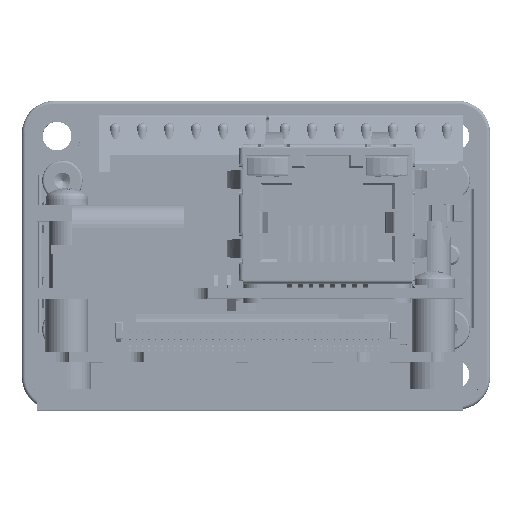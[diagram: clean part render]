
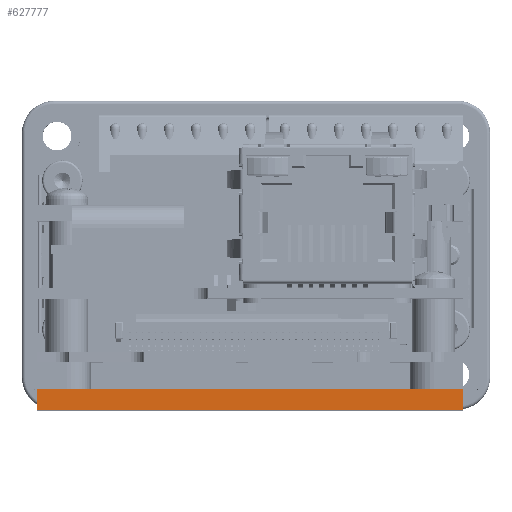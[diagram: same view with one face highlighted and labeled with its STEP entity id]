
A CAD part, top view. The second image highlights one B-rep face of the part: STEP entity #627777.
In plain terms, the highlighted planar face has unit normal (0, 0, 1).
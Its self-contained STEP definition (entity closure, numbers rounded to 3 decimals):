
#46774 = FACE_OUTER_BOUND ( 'NONE', #929274, .T. ) ;
#48662 = VECTOR ( 'NONE', #927482, 1000. ) ;
#59530 = VECTOR ( 'NONE', #308398, 1000. ) ;
#146693 = EDGE_CURVE ( 'NONE', #1044557, #896619, #167905, .T. ) ;
#167905 = LINE ( 'NONE', #1010710, #48662 ) ;
#256020 = DIRECTION ( 'NONE',  ( 1., 0., 0. ) ) ;
#307417 = VERTEX_POINT ( 'NONE', #579185 ) ;
#308398 = DIRECTION ( 'NONE',  ( 0., 1., 0. ) ) ;
#344190 = DIRECTION ( 'NONE',  ( 1., 0., 0. ) ) ;
#360541 = LINE ( 'NONE', #848671, #1209197 ) ;
#382449 = ORIENTED_EDGE ( 'NONE', *, *, #761247, .T. ) ;
#393492 = CARTESIAN_POINT ( 'NONE',  ( 19.455, -12.828, 53.729 ) ) ;
#401805 = LINE ( 'NONE', #674875, #59530 ) ;
#427535 = CARTESIAN_POINT ( 'NONE',  ( 19.455, -12.828, 53.729 ) ) ;
#443187 = PLANE ( 'NONE',  #1212294 ) ;
#579185 = CARTESIAN_POINT ( 'NONE',  ( 19.455, -14.828, 53.729 ) ) ;
#627777 = ADVANCED_FACE ( 'NONE', ( #46774 ), #443187, .F. ) ;
#635582 = CARTESIAN_POINT ( 'NONE',  ( -20.545, -12.828, 53.73 ) ) ;
#674875 = CARTESIAN_POINT ( 'NONE',  ( 19.455, -14.828, 53.729 ) ) ;
#695701 = EDGE_CURVE ( 'NONE', #1044557, #1002691, #1185530, .T. ) ;
#757073 = DIRECTION ( 'NONE',  ( 1., 0., 0. ) ) ;
#761247 = EDGE_CURVE ( 'NONE', #307417, #1002691, #401805, .T. ) ;
#780523 = ORIENTED_EDGE ( 'NONE', *, *, #992348, .T. ) ;
#848671 = CARTESIAN_POINT ( 'NONE',  ( -20.545, -14.828, 53.73 ) ) ;
#873267 = ORIENTED_EDGE ( 'NONE', *, *, #695701, .F. ) ;
#896619 = VERTEX_POINT ( 'NONE', #1120757 ) ;
#927482 = DIRECTION ( 'NONE',  ( 0., -1., 0. ) ) ;
#929274 = EDGE_LOOP ( 'NONE', ( #780523, #382449, #873267, #1009948 ) ) ;
#992348 = EDGE_CURVE ( 'NONE', #896619, #307417, #360541, .T. ) ;
#1002691 = VERTEX_POINT ( 'NONE', #393492 ) ;
#1009948 = ORIENTED_EDGE ( 'NONE', *, *, #146693, .T. ) ;
#1010710 = CARTESIAN_POINT ( 'NONE',  ( -20.545, -14.828, 53.73 ) ) ;
#1013278 = DIRECTION ( 'NONE',  ( 0., 0., -1. ) ) ;
#1022244 = VECTOR ( 'NONE', #344190, 1000. ) ;
#1044557 = VERTEX_POINT ( 'NONE', #635582 ) ;
#1120757 = CARTESIAN_POINT ( 'NONE',  ( -20.545, -14.828, 53.73 ) ) ;
#1185530 = LINE ( 'NONE', #427535, #1022244 ) ;
#1209197 = VECTOR ( 'NONE', #757073, 1000. ) ;
#1212294 = AXIS2_PLACEMENT_3D ( 'NONE', #1212547, #1013278, #256020 ) ;
#1212547 = CARTESIAN_POINT ( 'NONE',  ( 19.455, -14.828, 53.729 ) ) ;
